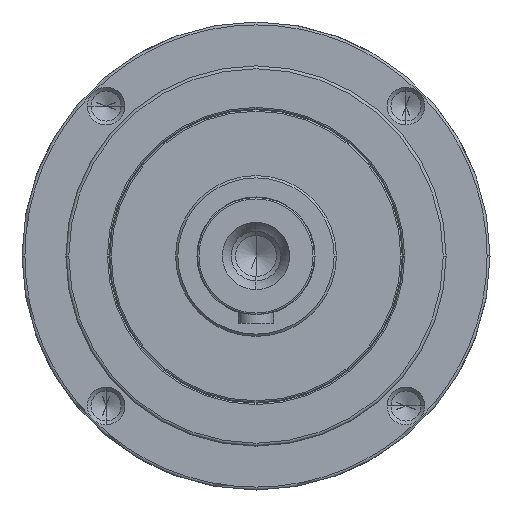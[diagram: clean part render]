
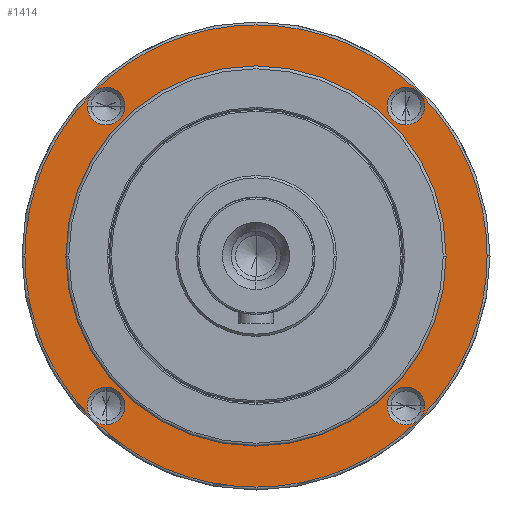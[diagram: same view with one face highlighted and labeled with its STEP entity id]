
A CAD part, left-side view. The second image highlights one B-rep face of the part: STEP entity #1414.
In plain terms, the highlighted planar face has unit normal (-1, 0, 0).
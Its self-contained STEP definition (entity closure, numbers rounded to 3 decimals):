
#231=CARTESIAN_POINT('',(5.,51.265,51.265));
#232=DIRECTION('',(1.,0.,0.));
#233=DIRECTION('',(0.,-1.,0.));
#234=AXIS2_PLACEMENT_3D('',#231,#232,#233);
#236=CARTESIAN_POINT('',(5.,51.265,51.265));
#237=DIRECTION('',(1.,0.,0.));
#238=DIRECTION('',(0.,1.,0.));
#239=AXIS2_PLACEMENT_3D('',#236,#237,#238);
#241=CARTESIAN_POINT('',(5.,51.265,-51.265));
#242=DIRECTION('',(1.,0.,0.));
#243=DIRECTION('',(0.,0.,1.));
#244=AXIS2_PLACEMENT_3D('',#241,#242,#243);
#246=CARTESIAN_POINT('',(5.,51.265,-51.265));
#247=DIRECTION('',(1.,0.,0.));
#248=DIRECTION('',(0.,0.,-1.));
#249=AXIS2_PLACEMENT_3D('',#246,#247,#248);
#251=CARTESIAN_POINT('',(5.,-51.265,-51.265));
#252=DIRECTION('',(1.,0.,0.));
#253=DIRECTION('',(0.,1.,0.));
#254=AXIS2_PLACEMENT_3D('',#251,#252,#253);
#256=CARTESIAN_POINT('',(5.,-51.265,-51.265));
#257=DIRECTION('',(1.,0.,0.));
#258=DIRECTION('',(0.,-1.,0.));
#259=AXIS2_PLACEMENT_3D('',#256,#257,#258);
#261=CARTESIAN_POINT('',(5.,-51.265,51.265));
#262=DIRECTION('',(1.,0.,0.));
#263=DIRECTION('',(0.,0.,-1.));
#264=AXIS2_PLACEMENT_3D('',#261,#262,#263);
#266=CARTESIAN_POINT('',(5.,-51.265,51.265));
#267=DIRECTION('',(1.,0.,0.));
#268=DIRECTION('',(0.,0.,1.));
#269=AXIS2_PLACEMENT_3D('',#266,#267,#268);
#271=CARTESIAN_POINT('',(5.,0.,0.));
#272=DIRECTION('',(-1.,0.,0.));
#273=DIRECTION('',(0.,1.,0.));
#274=AXIS2_PLACEMENT_3D('',#271,#272,#273);
#276=CARTESIAN_POINT('',(5.,0.,0.));
#277=DIRECTION('',(-1.,0.,0.));
#278=DIRECTION('',(0.,-1.,0.));
#279=AXIS2_PLACEMENT_3D('',#276,#277,#278);
#281=CARTESIAN_POINT('',(5.,0.,0.));
#282=DIRECTION('',(1.,0.,0.));
#283=DIRECTION('',(0.,1.,0.));
#284=AXIS2_PLACEMENT_3D('',#281,#282,#283);
#286=CARTESIAN_POINT('',(5.,0.,0.));
#287=DIRECTION('',(1.,0.,0.));
#288=DIRECTION('',(0.,-1.,0.));
#289=AXIS2_PLACEMENT_3D('',#286,#287,#288);
#899=CARTESIAN_POINT('',(5.,44.815,51.265));
#900=CARTESIAN_POINT('',(5.,57.715,51.265));
#901=VERTEX_POINT('',#899);
#902=VERTEX_POINT('',#900);
#903=CARTESIAN_POINT('',(5.,51.265,-44.815));
#904=CARTESIAN_POINT('',(5.,51.265,-57.715));
#905=VERTEX_POINT('',#903);
#906=VERTEX_POINT('',#904);
#907=CARTESIAN_POINT('',(5.,-44.815,-51.265));
#908=CARTESIAN_POINT('',(5.,-57.715,-51.265));
#909=VERTEX_POINT('',#907);
#910=VERTEX_POINT('',#908);
#911=CARTESIAN_POINT('',(5.,-51.265,44.815));
#912=CARTESIAN_POINT('',(5.,-51.265,57.715));
#913=VERTEX_POINT('',#911);
#914=VERTEX_POINT('',#912);
#999=CARTESIAN_POINT('',(5.,65.,0.));
#1000=CARTESIAN_POINT('',(5.,-65.,0.));
#1001=VERTEX_POINT('',#999);
#1002=VERTEX_POINT('',#1000);
#1011=CARTESIAN_POINT('',(5.,79.,0.));
#1012=CARTESIAN_POINT('',(5.,-79.,0.));
#1013=VERTEX_POINT('',#1011);
#1014=VERTEX_POINT('',#1012);
#1375=CARTESIAN_POINT('',(5.,0.,0.));
#1376=DIRECTION('',(-1.,0.,0.));
#1377=DIRECTION('',(0.,1.,0.));
#1378=AXIS2_PLACEMENT_3D('',#1375,#1376,#1377);
#1379=PLANE('',#1378);
#1380=ORIENTED_EDGE('',*,*,#1331,.T.);
#1381=ORIENTED_EDGE('',*,*,#1316,.T.);
#1382=EDGE_LOOP('',(#1380,#1381));
#1383=FACE_OUTER_BOUND('',#1382,.F.);
#1385=ORIENTED_EDGE('',*,*,#1384,.F.);
#1387=ORIENTED_EDGE('',*,*,#1386,.F.);
#1388=EDGE_LOOP('',(#1385,#1387));
#1389=FACE_BOUND('',#1388,.F.);
#1391=ORIENTED_EDGE('',*,*,#1390,.F.);
#1393=ORIENTED_EDGE('',*,*,#1392,.F.);
#1394=EDGE_LOOP('',(#1391,#1393));
#1395=FACE_BOUND('',#1394,.F.);
#1397=ORIENTED_EDGE('',*,*,#1396,.F.);
#1399=ORIENTED_EDGE('',*,*,#1398,.F.);
#1400=EDGE_LOOP('',(#1397,#1399));
#1401=FACE_BOUND('',#1400,.F.);
#1403=ORIENTED_EDGE('',*,*,#1402,.F.);
#1405=ORIENTED_EDGE('',*,*,#1404,.F.);
#1406=EDGE_LOOP('',(#1403,#1405));
#1407=FACE_BOUND('',#1406,.F.);
#1409=ORIENTED_EDGE('',*,*,#1408,.T.);
#1411=ORIENTED_EDGE('',*,*,#1410,.T.);
#1412=EDGE_LOOP('',(#1409,#1411));
#1413=FACE_BOUND('',#1412,.F.);
#1414=ADVANCED_FACE('',(#1383,#1389,#1395,#1401,#1407,#1413),#1379,.T.);
#235=CIRCLE('',#234,6.45);
#240=CIRCLE('',#239,6.45);
#245=CIRCLE('',#244,6.45);
#250=CIRCLE('',#249,6.45);
#255=CIRCLE('',#254,6.45);
#260=CIRCLE('',#259,6.45);
#265=CIRCLE('',#264,6.45);
#270=CIRCLE('',#269,6.45);
#275=CIRCLE('',#274,65.);
#280=CIRCLE('',#279,65.);
#285=CIRCLE('',#284,79.);
#290=CIRCLE('',#289,79.);
#1316=EDGE_CURVE('',#1014,#1013,#290,.T.);
#1331=EDGE_CURVE('',#1013,#1014,#285,.T.);
#1384=EDGE_CURVE('',#901,#902,#235,.T.);
#1386=EDGE_CURVE('',#902,#901,#240,.T.);
#1390=EDGE_CURVE('',#905,#906,#245,.T.);
#1392=EDGE_CURVE('',#906,#905,#250,.T.);
#1396=EDGE_CURVE('',#909,#910,#255,.T.);
#1398=EDGE_CURVE('',#910,#909,#260,.T.);
#1402=EDGE_CURVE('',#913,#914,#265,.T.);
#1404=EDGE_CURVE('',#914,#913,#270,.T.);
#1408=EDGE_CURVE('',#1001,#1002,#275,.T.);
#1410=EDGE_CURVE('',#1002,#1001,#280,.T.);
